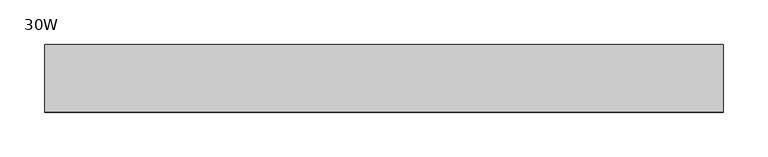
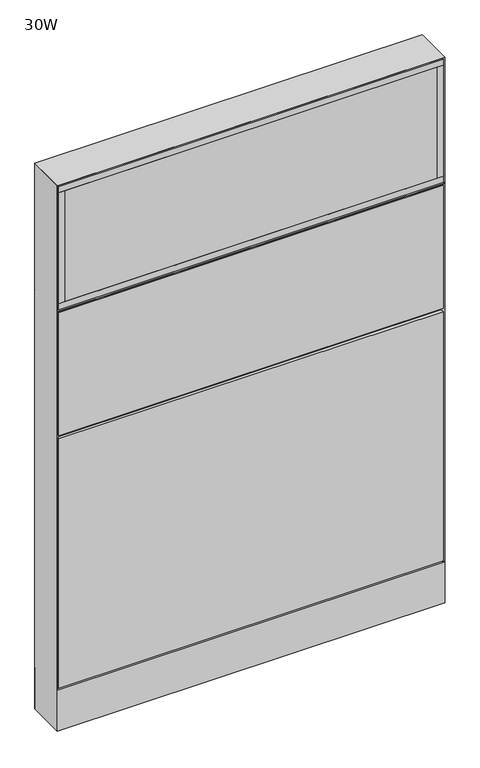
"""IFC4 building model written with IfcOpenShell, lengths in millimetres: furniture geometry, Steelcase - Montage - Frame - 45H - Enhanced Monolithic - Base Cavity : 30W."""

from ifc_helpers import new_model, si_unit, point, frame, frame_2d, origin, origin_with_axes, place, context, project, spatial, polyline, circle_curve, trimmed, segment, composite_curve, outline, extrude, faceted_brep, source, transform, mapped, element, save


def furniture_30w_9d0055d7(model_context):
    return source(origin(), model_context, "Body", "SolidModel", [
        extrude(outline(polyline([(746.125, -38.1000015), (15.875, -38.1000015), (15.875, -31.7500017), (746.125, -31.7500017), (746.125, -38.1000015)])), frame((0.0, 0.0, 890.5875), z_axis=(0.0, 0.0, 1.0), x_axis=(1.0, 0.0, 0.0)), (0.0, 0.0, 1.0), 230.1875),
        extrude(outline(polyline([(746.125, 31.7499985), (15.875, 31.7499985), (15.875, 38.1000015), (746.125, 38.1000015), (746.125, 31.7499985)])), frame((0.0, 0.0, 890.5875), z_axis=(0.0, 0.0, 1.0), x_axis=(1.0, 0.0, 0.0)), (0.0, 0.0, 1.0), 230.1875),
        extrude(outline(polyline([(758.825, 38.1000015), (758.825, -38.1000015), (746.125, -38.1000015), (746.125, 38.1000015), (758.825, 38.1000015)])), frame((0.0, 0.0, 890.5875), z_axis=(0.0, 0.0, 1.0), x_axis=(1.0, 0.0, 0.0)), (0.0, 0.0, 1.0), 230.1875),
        extrude(outline(polyline([(15.875, 38.1000015), (15.875, -38.1000015), (3.175, -38.1000015), (3.175, 38.1000015), (15.875, 38.1000015)])), frame((0.0, 0.0, 890.5875), z_axis=(0.0, 0.0, 1.0), x_axis=(1.0, 0.0, 0.0)), (0.0, 0.0, 1.0), 230.1875),
        extrude(outline(polyline([(758.825, 38.1000015), (758.825, -38.1000015), (3.175, -38.1000015), (3.175, 38.1000015), (758.825, 38.1000015)])), frame((0.0, 0.0, 877.8875), z_axis=(0.0, 0.0, 1.0), x_axis=(1.0, 0.0, 0.0)), (0.0, 0.0, 1.0), 12.7),
        extrude(outline(polyline([(758.825, 38.1000015), (758.825, -38.1000015), (3.175, -38.1000015), (3.175, 38.1000015), (758.825, 38.1000015)])), frame((0.0, 0.0, 1120.775), z_axis=(0.0, 0.0, 1.0), x_axis=(1.0, 0.0, 0.0)), (0.0, 0.0, 1.0), 12.7),
        faceted_brep([(6.3499917, 31.7526299, 881.0624997), (6.3499917, 31.7526299, 868.3625003), (755.6500047, 31.7526299, 868.3625003), (755.6500047, 31.7526299, 881.0624997), (-5.4e-06, 38.102627, 874.7124973), (762.0, 38.1026253, 874.7125044)], [[[0, 1, 2, 3]], [[4, 1, 0]], [[4, 0, 3, 5]], [[5, 2, 1, 4]], [[3, 2, 5]]]),
        extrude(outline(polyline([(3.175, 31.7500194), (3.175, 38.1000194), (758.825, 38.1000194), (758.825, 31.7500194), (3.175, 31.7500194)])), frame((0.0, 0.0, 615.95), z_axis=(0.0, 0.0, 1.0), x_axis=(1.0, 0.0, 0.0)), (0.0, 0.0, 1.0), 255.5875),
        extrude(outline(polyline([(3.175, 31.7500194), (3.175, 38.1000194), (758.825, 38.1000194), (758.825, 31.7500194), (3.175, 31.7500194)])), frame((0.0, 0.0, 92.075), z_axis=(0.0, 0.0, 1.0), x_axis=(1.0, 0.0, 0.0)), (0.0, 0.0, 1.0), 517.525),
        extrude(outline(polyline([(746.125, 38.1000015), (746.125, 31.7500017), (15.875, 31.7500017), (15.875, 38.1000015), (746.125, 38.1000015)])), frame((0.0, 0.0, 890.5875), z_axis=(0.0, 0.0, 1.0), x_axis=(1.0, 0.0, 0.0)), (0.0, 0.0, 1.0), 230.1875),
        extrude(outline(polyline([(746.125, -31.7499985), (746.125, -38.1000015), (15.875, -38.1000015), (15.875, -31.7499985), (746.125, -31.7499985)])), frame((0.0, 0.0, 890.5875), z_axis=(0.0, 0.0, 1.0), x_axis=(1.0, 0.0, 0.0)), (0.0, 0.0, 1.0), 230.1875),
        extrude(outline(polyline([(758.825, -38.1000015), (746.125, -38.1000015), (746.125, 38.1000015), (758.825, 38.1000015), (758.825, -38.1000015)])), frame((0.0, 0.0, 890.5875), z_axis=(0.0, 0.0, 1.0), x_axis=(1.0, 0.0, 0.0)), (0.0, 0.0, 1.0), 230.1875),
        extrude(outline(polyline([(15.875, -38.1000015), (3.175, -38.1000015), (3.175, 38.1000015), (15.875, 38.1000015), (15.875, -38.1000015)])), frame((0.0, 0.0, 890.5875), z_axis=(0.0, 0.0, 1.0), x_axis=(1.0, 0.0, 0.0)), (0.0, 0.0, 1.0), 230.1875),
        extrude(outline(polyline([(758.825, -38.1000015), (3.175, -38.1000015), (3.175, 38.1000015), (758.825, 38.1000015), (758.825, -38.1000015)])), frame((0.0, 0.0, 877.8875), z_axis=(0.0, 0.0, 1.0), x_axis=(1.0, 0.0, 0.0)), (0.0, 0.0, 1.0), 12.7),
        extrude(outline(polyline([(758.825, -38.1000015), (3.175, -38.1000015), (3.175, 38.1000015), (758.825, 38.1000015), (758.825, -38.1000015)])), frame((0.0, 0.0, 1120.775), z_axis=(0.0, 0.0, 1.0), x_axis=(1.0, 0.0, 0.0)), (0.0, 0.0, 1.0), 12.7),
        faceted_brep([(6.3499917, -31.7526299, 881.0624997), (755.6500047, -31.7526299, 881.0624997), (755.6500047, -31.7526299, 868.3625003), (6.3499917, -31.7526299, 868.3625003), (-5.4e-06, -38.102627, 874.7125027), (762.0, -38.1026297, 874.7125)], [[[0, 1, 2, 3]], [[4, 0, 3]], [[4, 5, 1, 0]], [[5, 4, 3, 2]], [[1, 5, 2]]]),
        extrude(outline(polyline([(3.175, -31.7500194), (758.825, -31.7500194), (758.825, -38.1000194), (3.175, -38.1000194), (3.175, -31.7500194)])), frame((0.0, 0.0, 615.95), z_axis=(0.0, 0.0, 1.0), x_axis=(1.0, 0.0, 0.0)), (0.0, 0.0, 1.0), 255.5875),
        extrude(outline(polyline([(3.175, -31.7500194), (758.825, -31.7500194), (758.825, -38.1000194), (3.175, -38.1000194), (3.175, -31.7500194)])), frame((0.0, 0.0, 92.075), z_axis=(0.0, 0.0, 1.0), x_axis=(1.0, 0.0, 0.0)), (0.0, 0.0, 1.0), 517.525),
        extrude(outline(polyline([(6.350003, -31.7499985), (755.649997, -31.7499985), (762.0, -38.1000015), (0.0, -38.1000015), (6.350003, -31.7499985)])), frame((0.0, 0.0, 4.064), z_axis=(0.0, 0.0, 1.0), x_axis=(1.0, 0.0, 0.0)), (0.0, 0.0, 1.0), 84.835997),
        extrude(outline(polyline([(6.3500002, 31.7500017), (0.0, 38.1000015), (762.0, 38.1000015), (755.6500002, 31.7500017), (6.3500002, 31.7500017)])), frame((0.0, 0.0, 4.064), z_axis=(0.0, 0.0, 1.0), x_axis=(1.0, 0.0, 0.0)), (0.0, 0.0, 1.0), 84.835997),
        faceted_brep([(762.0, -38.1000015, 1136.65), (0.0, -38.1000015, 1136.65), (6.3500484, -31.749953, 1130.2999516), (755.6499516, -31.749953, 1130.2999516), (6.3500484, 31.749953, 1130.2999516), (755.6499516, 31.749953, 1130.2999516), (0.0, 38.1000015, 1136.65), (762.0, 38.1000015, 1136.65)], [[[0, 1, 2, 3]], [[3, 2, 4, 5]], [[6, 7, 5, 4]], [[1, 0, 7, 6]], [[2, 1, 6, 4]], [[0, 3, 5, 7]]]),
        extrude(outline(composite_curve([segment(trimmed(circle_curve(frame_2d((44.45, 0.0)), 15.24), [point((29.21, 0.0))], [point((59.69, 0.0))], False, "CARTESIAN"), True, "CONTINUOUS"), segment(trimmed(circle_curve(frame_2d((44.45, 0.0)), 15.24), [point((59.69, 0.0))], [point((29.21, 0.0))], False, "CARTESIAN"), True, "CONTINUOUS")], self_intersect=False)), origin_with_axes(), (0.0, 0.0, 1.0), 4.064),
        extrude(outline(composite_curve([segment(trimmed(circle_curve(frame_2d((717.55, 0.0)), 15.24), [point((702.31, 0.0))], [point((732.79, 0.0))], False, "CARTESIAN"), True, "CONTINUOUS"), segment(trimmed(circle_curve(frame_2d((717.55, 0.0)), 15.24), [point((732.79, 0.0))], [point((702.31, 0.0))], False, "CARTESIAN"), True, "CONTINUOUS")], self_intersect=False)), origin_with_axes(), (0.0, 0.0, 1.0), 4.064),
        faceted_brep([(762.0, -38.1000106, 4.064), (762.0, 38.1000015, 4.064), (762.0, 38.1000015, 1136.65), (762.0, -38.1000106, 1136.6499637), (0.0, 38.1000015, 4.064), (0.0, -38.1000015, 4.064), (0.0, -38.1000015, 1136.65), (0.0, 38.1000015, 1136.65), (755.6499879, 31.7500017, 600.202), (6.35, 31.7500017, 600.202), (6.3499998, 31.7500017, 612.902), (755.6499879, 31.7500017, 612.902), (6.35, -31.7499985, 612.902), (755.6499879, -31.7499985, 612.902), (6.350003, -31.7499985, 600.202), (755.6499879, -31.7499985, 600.202), (6.35, 31.7500015, 4.064), (6.35, -31.7500015, 4.064), (755.6499879, 31.7499894, 4.064), (755.6499879, -31.7499985, 4.064), (6.35, 31.7500015, 1130.3), (6.35, -31.7500015, 1130.3), (755.6499879, -31.7499985, 1130.2999516), (755.6499879, 31.7499895, 1130.2999516)], [[[0, 1, 2, 3]], [[4, 5, 6, 7]], [[8, 9, 10, 11]], [[11, 10, 12, 13]], [[13, 12, 14, 15]], [[9, 8, 15, 14]], [[16, 17, 5, 4]], [[18, 1, 0, 19]], [[16, 4, 7, 20, 10, 9]], [[5, 17, 14, 12, 21, 6]], [[12, 10, 20, 21]], [[17, 16, 9, 14]], [[11, 13, 22, 23]], [[18, 19, 15, 8]], [[19, 0, 3, 22, 13, 15]], [[1, 18, 8, 11, 23, 2]], [[7, 6, 21, 20]], [[3, 2, 23, 22]]]),
    ])


if __name__ == "__main__":
    model = new_model("IFC4")
    model_context = context("Model", 3, world=origin())
    ifc_project = project(units=[si_unit("LENGTHUNIT", "METRE", prefix="MILLI")], contexts=[model_context])
    site = spatial("IfcSite", under=ifc_project)
    building = spatial("IfcBuilding", under=site)
    placement = place(None, origin())
    furniture_30w_shape = furniture_30w_9d0055d7(model_context)
    element("IfcFurniture", 1, ObjectType="Steelcase - Montage - Frame - 45H - Enhanced Monolithic - Base Cavity : 30W", at=placement, inside=building, context=model_context, shape_type="MappedRepresentation", body=[
        mapped(furniture_30w_shape, transform((0.0, 0.0, 0.0), x_axis=(1.0, 0.0, 0.0), y_axis=(0.0, 1.0, 0.0), z_axis=(0.0, 0.0, 1.0))),
    ])
    save(model, "model.ifc")
